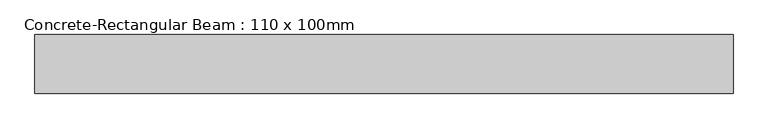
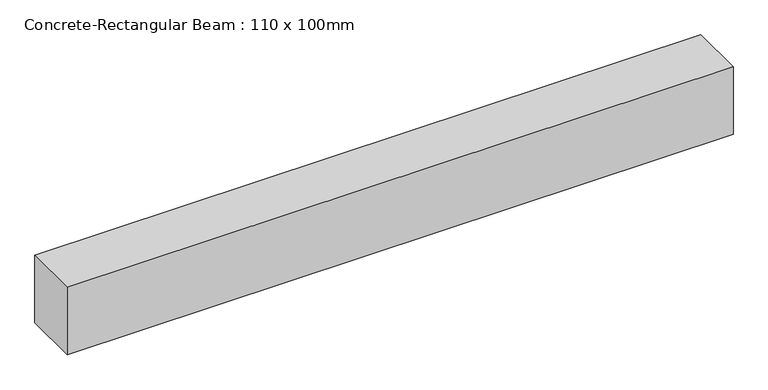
"""IFC4 building model written with IfcOpenShell, lengths in millimetres: beam geometry, Concrete-Rectangular Beam : 110 x 100mm."""

from ifc_helpers import new_model, si_unit, frame, origin, place, context, project, spatial, polyline, outline, extrude, source, transform, mapped, element, save


def concrete_rectangular_beam_110_x_100mm_af151667(model_context):
    return source(origin(), model_context, "Body", "SweptSolid", [
        extrude(outline(polyline([(655.0, 55.0), (655.0, -55.0), (-655.0, -55.0), (-655.0, 55.0), (655.0, 55.0)])), frame((0.0, 0.0, -70.0), z_axis=(0.0, 0.0, 1.0), x_axis=(1.0, 0.0, 0.0)), (0.0, 0.0, 1.0), 140.0),
    ])


if __name__ == "__main__":
    model = new_model("IFC4")
    model_context = context("Model", 3, world=origin())
    ifc_project = project(units=[si_unit("LENGTHUNIT", "METRE", prefix="MILLI")], contexts=[model_context])
    site = spatial("IfcSite", under=ifc_project)
    building = spatial("IfcBuilding", under=site)
    placement = place(None, origin())
    concrete_rectangular_beam_110_x_100mm_shape = concrete_rectangular_beam_110_x_100mm_af151667(model_context)
    element("IfcBeam", 1, ObjectType="Concrete-Rectangular Beam : 110 x 100mm", at=placement, inside=building, context=model_context, shape_type="MappedRepresentation", body=[
        mapped(concrete_rectangular_beam_110_x_100mm_shape, transform((0.0, 0.0, 0.0), x_axis=(1.0, 0.0, 0.0), y_axis=(0.0, 1.0, 0.0), z_axis=(0.0, 0.0, 1.0))),
    ])
    save(model, "model.ifc")
